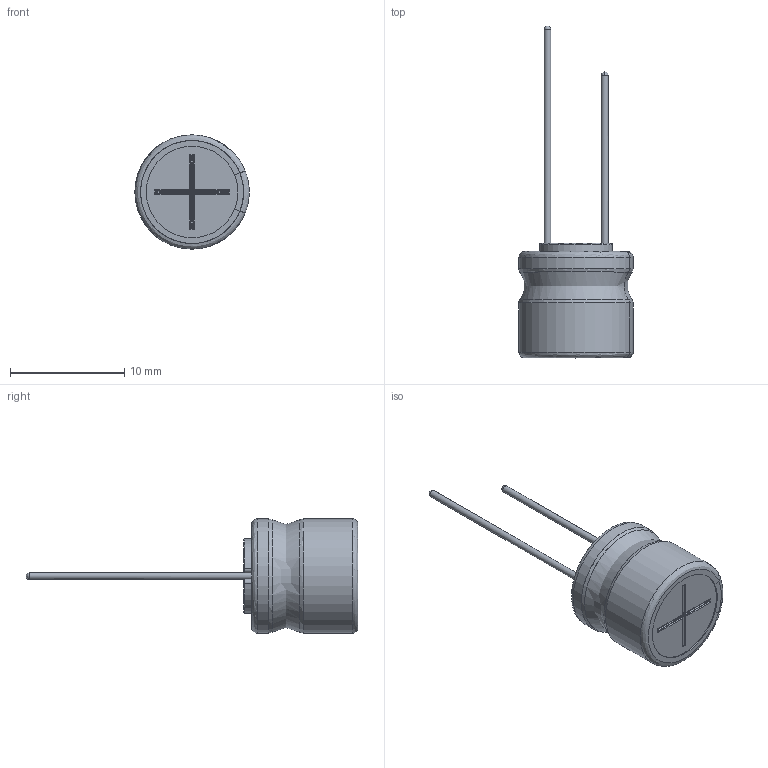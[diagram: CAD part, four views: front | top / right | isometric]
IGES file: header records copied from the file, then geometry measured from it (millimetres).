
Start section: JAMA-IS VERSION  1.0
Bounding box: 9.99 x 29 x 10 mm (x, y, z)
Surface area: 1174.6 mm2 (no closed solid volume)
Topology: 0 solids, 0 shells, 115 faces, 1315 edges, 1296 vertices
Faces by surface type: bspline 115
